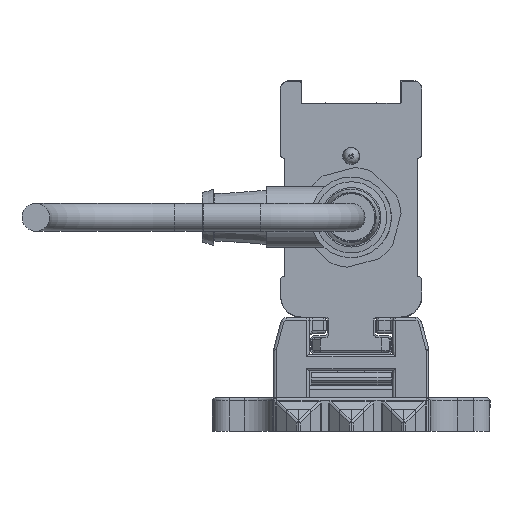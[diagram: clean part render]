
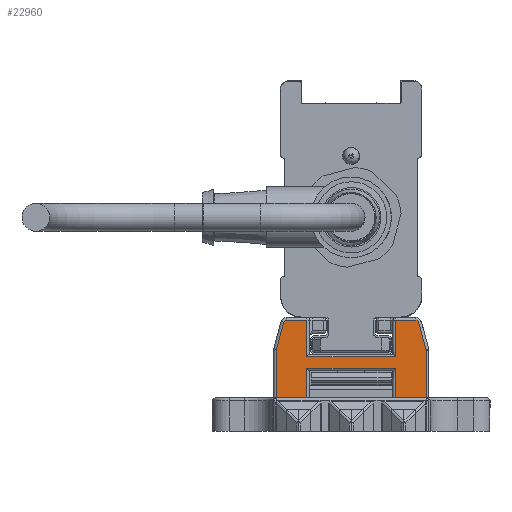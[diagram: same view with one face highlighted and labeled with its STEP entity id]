
A CAD part, left-side view. The second image highlights one B-rep face of the part: STEP entity #22960.
In plain terms, the highlighted planar face has unit normal (-1, 0, 0).
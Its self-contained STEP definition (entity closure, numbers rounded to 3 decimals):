
#22960=ADVANCED_FACE('', (#22970), #22980, .T.);
#93730=AXIS2_PLACEMENT_3D('Ax2Pl3d', #93740, #93750, #93760);
#93970=AXIS2_PLACEMENT_3D('Ax2Pl3d', #93980, #93990, #94000);
#98850=AXIS2_PLACEMENT_3D('Ax2Pl3d', #98860, #98870, #98880);
#103930=AXIS2_PLACEMENT_3D('Ax2Pl3d', #103940, #103950, #103960);
#113610=AXIS2_PLACEMENT_3D('Ax2Pl3d', #113620, #113630, #113640);
#322720=CARTESIAN_POINT('', (-747.669,-886.345,
331.37));
#93740=CARTESIAN_POINT('HicPkt', (-747.669,-885.379,
331.111));
#322730=CARTESIAN_POINT('', (-747.669,-886.379,
331.111));
#322740=CARTESIAN_POINT('', (-747.669,-885.037,336.255)
);
#322760=CARTESIAN_POINT('', (-747.669,-885.037,336.255)
);
#322790=CARTESIAN_POINT('', (-747.669,-884.554,
336.625));
#93980=CARTESIAN_POINT('HicPkt', (-747.669,-884.554,
336.125));
#323010=CARTESIAN_POINT('', (-747.669,-886.379,
322.625));
#323020=CARTESIAN_POINT('', (-747.669,-880.881,
322.625));
#323030=CARTESIAN_POINT('', (-747.669,-880.881,
322.625));
#323110=CARTESIAN_POINT('', (-747.669,-864.881,322.625)
);
#323120=CARTESIAN_POINT('', (-747.669,-859.383,
322.625));
#323130=CARTESIAN_POINT('', (-747.669,-859.383,
322.625));
#98860=CARTESIAN_POINT('HicPkt', (-747.669,-861.209,
336.125));
#325600=CARTESIAN_POINT('', (-747.669,-860.726,
336.255));
#325610=CARTESIAN_POINT('', (-747.669,-861.209,
336.625));
#325620=CARTESIAN_POINT('', (-747.669,-880.881,
330.025));
#325630=CARTESIAN_POINT('', (-747.669,-864.881,330.025))
;
#325640=CARTESIAN_POINT('', (-747.669,-880.881,
330.025));
#325800=CARTESIAN_POINT('', (-747.669,-880.881,
328.005));
#325810=CARTESIAN_POINT('', (-747.669,-864.881,
328.005));
#325820=CARTESIAN_POINT('', (-747.669,-864.881,
328.005));
#325830=CARTESIAN_POINT('', (-747.669,-880.881,
328.005));
#325850=CARTESIAN_POINT('', (-747.669,-864.881,322.625)
);
#325860=CARTESIAN_POINT('', (-747.669,-864.881,330.025))
;
#325870=CARTESIAN_POINT('', (-747.669,-864.881,
336.625));
#326720=CARTESIAN_POINT('', (-747.669,-864.881,
336.625));
#326730=CARTESIAN_POINT('', (-747.669,-860.726,
336.255));
#326740=CARTESIAN_POINT('', (-747.669,-859.417,
331.37));
#326930=CARTESIAN_POINT('', (-747.669,-859.383,
331.111));
#326940=CARTESIAN_POINT('', (-747.669,-859.383,
331.111));
#103940=CARTESIAN_POINT('HicPkt', (-747.669,-860.383,
331.111));
#327750=CARTESIAN_POINT('', (-747.669,-886.379,
331.111));
#113620=CARTESIAN_POINT('HicPkt', (-747.669,-884.554,
336.625));
#329550=CARTESIAN_POINT('', (-747.669,-880.881,
336.625));
#329560=CARTESIAN_POINT('', (-747.669,-880.881,
336.625));
#329570=CARTESIAN_POINT('', (-747.669,-880.881,
336.625));
#369010=CIRCLE('Circle', #93730, 1.);
#369050=CIRCLE('Circle', #93970, 0.5);
#369630=CIRCLE('Circle', #98850, 0.5);
#370160=CIRCLE('Circle', #103930, 1.);
#93750=DIRECTION('Axis', (-1.,0.,0.)
);
#93760=DIRECTION('RefDirection', (0.,
0.,-1.));
#517530=DIRECTION('', (0.,0.259,
0.966));
#93990=DIRECTION('Axis', (-1.,0.,0.)
);
#94000=DIRECTION('RefDirection', (0.,
0.,-1.));
#517640=DIRECTION('', (0.,1.,0.));
#517680=DIRECTION('', (0.,1.,0.));
#98870=DIRECTION('Axis', (1.,0.,
0.));
#98880=DIRECTION('RefDirection', (0.,
0.,-1.));
#518870=DIRECTION('', (0.,-1.,0.))
;
#518970=DIRECTION('', (0.,1.,0.));
#518980=DIRECTION('', (0.,0.,1.));
#519000=DIRECTION('', (0.,0.,-1.)
);
#519010=DIRECTION('', (0.,0.,-1.))
;
#519440=DIRECTION('', (0.,-1.,0.));
#519450=DIRECTION('', (0.,-0.259,0.966));
#519540=DIRECTION('', (0.,0.,1.));
#103950=DIRECTION('Axis', (1.,0.,
0.));
#103960=DIRECTION('RefDirection', (0.,
0.,-1.));
#519910=DIRECTION('', (0.,0.,1.));
#113630=DIRECTION('Axis', (-1.,0.,
0.));
#113640=DIRECTION('RefDirection', (0.,
0.,-1.));
#520750=DIRECTION('', (0.,1.,0.));
#520760=DIRECTION('', (0.,0.,1.));
#562200=EDGE_CURVE('', #562210, #562190, #369010, .T.);
#562260=EDGE_CURVE('', #562190, #562240, #562270, .T.);
#562330=EDGE_CURVE('', #562240, #562320, #369050, .T.);
#562780=EDGE_CURVE('', #562770, #562790, #562800, .T.);
#562940=EDGE_CURVE('', #562930, #562950, #562960, .T.);
#567300=EDGE_CURVE('', #567310, #567320, #369630, .T.);
#567350=EDGE_CURVE('', #567360, #567370, #567380, .T.);
#567720=EDGE_CURVE('', #567700, #567730, #567740, .T.);
#567770=EDGE_CURVE('', #562790, #567700, #567780, .T.);
#567810=EDGE_CURVE('', #567730, #562930, #567820, .T.);
#567830=EDGE_CURVE('', #567840, #567360, #567850, .T.);
#569670=EDGE_CURVE('', #567320, #567840, #569680, .T.);
#569740=EDGE_CURVE('', #569750, #567310, #569760, .T.);
#570180=EDGE_CURVE('', #562950, #570190, #570200, .T.);
#570220=EDGE_CURVE('', #570190, #569750, #370160, .T.);
#571930=EDGE_CURVE('', #562770, #562210, #571940, .T.);
#575740=EDGE_CURVE('', #562320, #575750, #575760, .T.);
#575770=EDGE_CURVE('', #567370, #575750, #575780, .T.);
#683540=EDGE_LOOP('Edge_loop', (#683550,#683560,#683570,#683580,#683590,
#683600,#683610,#683620,#683630,#683640,#683650,#683660,#683670,#683680,
#683690,#683700,#683710,#683720));
#22970=FACE_OUTER_BOUND('Face_outer_bound', #683540, .T.);
#562270=LINE('Line', #322760, #765320);
#562800=LINE('Line', #323020, #765430);
#562960=LINE('Line', #323120, #765470);
#567380=LINE('Line', #325620, #766660);
#567740=LINE('Line', #325810, #766760);
#567780=LINE('Line', #325830, #766770);
#567820=LINE('Line', #325850, #766790);
#567850=LINE('Line', #325860, #766800);
#569680=LINE('Line', #326720, #767230);
#569760=LINE('Line', #326730, #767240);
#570200=LINE('Line', #326930, #767330);
#571940=LINE('Line', #327750, #767700);
#575760=LINE('Line', #329550, #768540);
#575780=LINE('Line', #329570, #768550);
#683550=ORIENTED_EDGE('', *, *, #575740, .T.);
#683560=ORIENTED_EDGE('', *, *, #575770, .F.);
#683570=ORIENTED_EDGE('', *, *, #567350, .F.);
#683580=ORIENTED_EDGE('', *, *, #567830, .F.);
#683590=ORIENTED_EDGE('', *, *, #569670, .F.);
#683600=ORIENTED_EDGE('', *, *, #567300, .F.);
#683610=ORIENTED_EDGE('', *, *, #569740, .F.);
#683620=ORIENTED_EDGE('', *, *, #570220, .F.);
#683630=ORIENTED_EDGE('', *, *, #570180, .F.);
#683640=ORIENTED_EDGE('', *, *, #562940, .F.);
#683650=ORIENTED_EDGE('', *, *, #567810, .F.);
#683660=ORIENTED_EDGE('', *, *, #567720, .F.);
#683670=ORIENTED_EDGE('', *, *, #567770, .F.);
#683680=ORIENTED_EDGE('', *, *, #562780, .F.);
#683690=ORIENTED_EDGE('', *, *, #571930, .T.);
#683700=ORIENTED_EDGE('', *, *, #562200, .T.);
#683710=ORIENTED_EDGE('', *, *, #562260, .T.);
#683720=ORIENTED_EDGE('', *, *, #562330, .T.);
#22980=PLANE('Plane', #113610);
#765320=VECTOR('', #517530, 5.057);
#765430=VECTOR('', #517640, 5.498);
#765470=VECTOR('', #517680, 5.498);
#766660=VECTOR('', #518870, 16.);
#766760=VECTOR('', #518970, 16.);
#766770=VECTOR('', #518980, 5.38);
#766790=VECTOR('', #519000, 5.38);
#766800=VECTOR('', #519010, 6.6);
#767230=VECTOR('', #519440, 3.672);
#767240=VECTOR('', #519450, 5.057);
#767330=VECTOR('', #519540, 8.486);
#767700=VECTOR('', #519910, 8.486);
#768540=VECTOR('', #520750, 3.672);
#768550=VECTOR('', #520760, 6.6);
#562190=VERTEX_POINT('', #322720);
#562210=VERTEX_POINT('', #322730);
#562240=VERTEX_POINT('', #322740);
#562320=VERTEX_POINT('', #322790);
#562770=VERTEX_POINT('', #323010);
#562790=VERTEX_POINT('', #323030);
#562930=VERTEX_POINT('', #323110);
#562950=VERTEX_POINT('', #323130);
#567310=VERTEX_POINT('', #325600);
#567320=VERTEX_POINT('', #325610);
#567360=VERTEX_POINT('', #325630);
#567370=VERTEX_POINT('', #325640);
#567700=VERTEX_POINT('', #325800);
#567730=VERTEX_POINT('', #325820);
#567840=VERTEX_POINT('', #325870);
#569750=VERTEX_POINT('', #326740);
#570190=VERTEX_POINT('', #326940);
#575750=VERTEX_POINT('', #329560);
